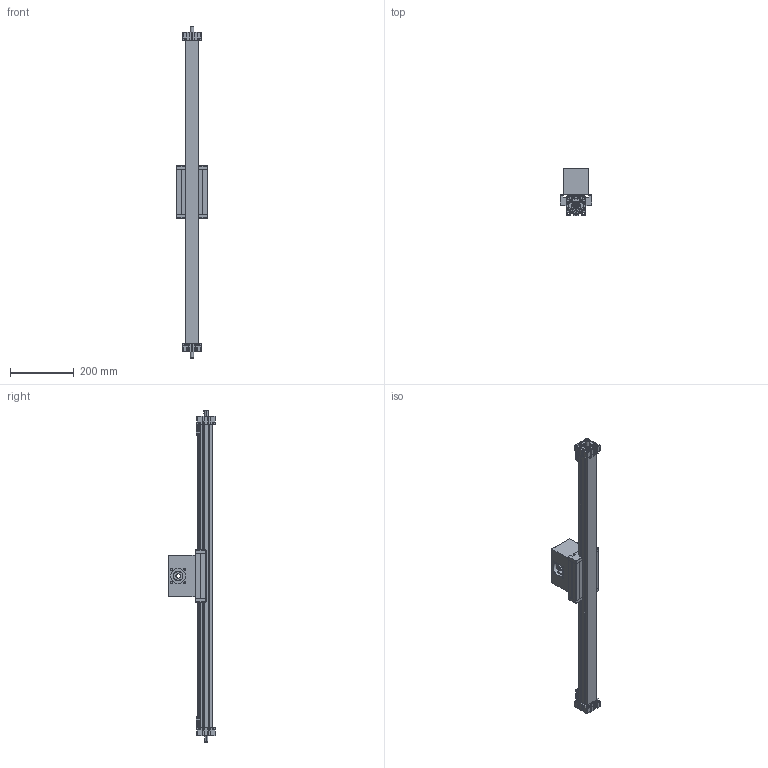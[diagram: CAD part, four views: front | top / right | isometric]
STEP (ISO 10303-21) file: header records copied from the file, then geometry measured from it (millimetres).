
FILE_DESCRIPTION (( 'STEP AP214' ), '1' );
FILE_NAME ('ELSD40 HD.STEP', '2022-12-07T12:35:22', ( '' ), ( '' ), 'SwSTEP 2.0', 'SolidWorks 2020', '' );
FILE_SCHEMA (( 'AUTOMOTIVE_DESIGN' ));
Length unit declared in the file: millimetre
Products named in the file (6): load block^ELSD40 HD_standard; carriage^ELSD40 HD_carriage version 0; timing belt reverse unit^ELSD40 HD_coupling claw pos.1; drive block^ELSD40 HD_4x guide rods; profile^ELSD40 HD_2x guide rods; ELSD40 HD
Assembly tree (5 placements, depth 2):
  ELSD40 HD
    profile^ELSD40 HD_2x guide rods
    carriage^ELSD40 HD_carriage version 0
    timing belt reverse unit^ELSD40 HD_coupling claw pos.1
    load block^ELSD40 HD_standard
    drive block^ELSD40 HD_4x guide rods
Bounding box: 100 x 147 x 1040 mm (x, y, z)
Volume: 2230743.7 mm3; surface area: 558618 mm2
Topology: 14 solids, 14 shells, 1145 faces, 3187 edges, 2090 vertices
Faces by surface type: plane 785, cylinder 304, cone 44, torus 8, sphere 4
Entity records: 37728 total; most frequent: CARTESIAN_POINT 6594, ORIENTED_EDGE 6366, DIRECTION 6169, EDGE_CURVE 3183, VECTOR 2455, LINE 2455, VERTEX_POINT 2090, AXIS2_PLACEMENT_3D 1857
